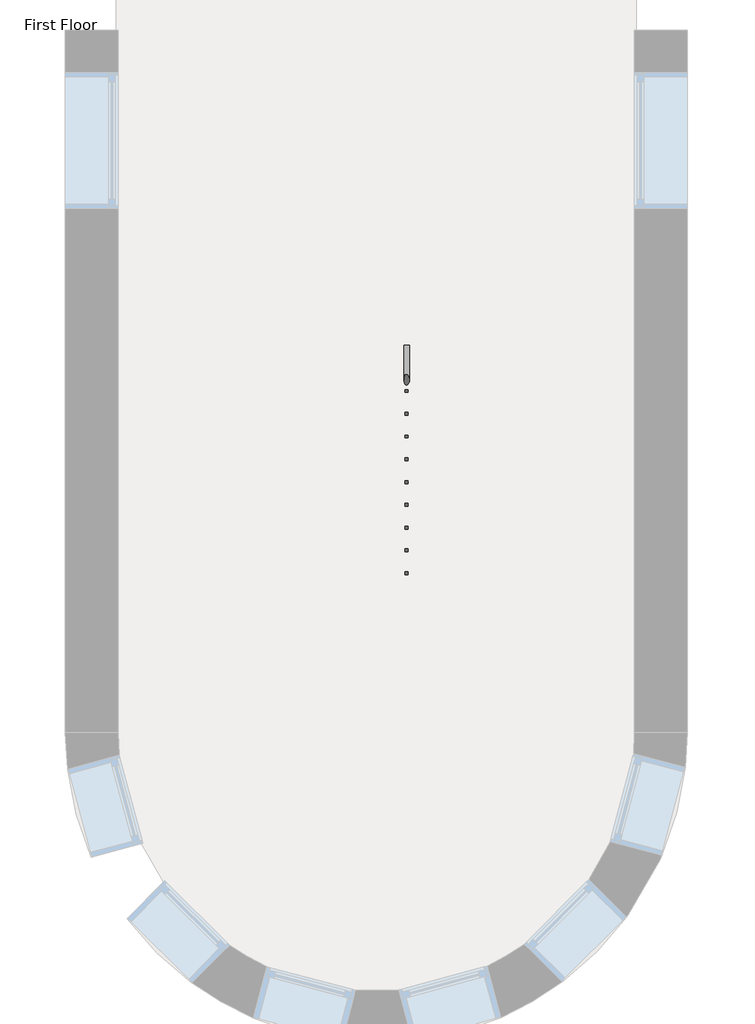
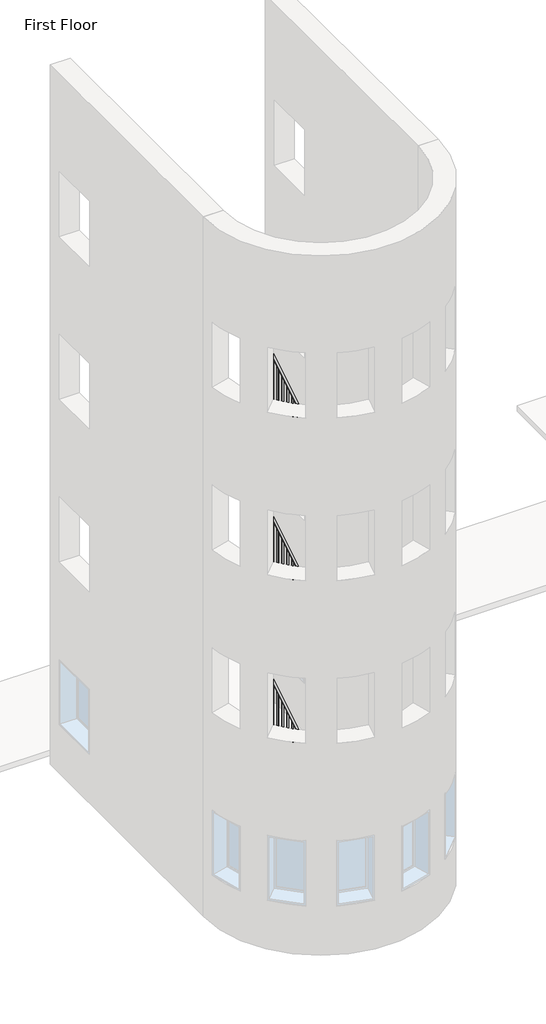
# One storey, part 18 of 21: 1 railing.
"""IFC4 building model written with IfcOpenShell, lengths in millimetres."""

from ifc_helpers import new_model, si_unit, frame, origin, place, context, project, spatial, polyline, circle_curve, ellipse_curve, outline, extrude, element, save
from ifc_brep_helpers import plane_surface, cylinder_surface, advanced_brep

model = new_model("IFC4")

# Units and contexts
model_context = context("Model", 3, world=origin())
ifc_project = project(units=[si_unit("LENGTHUNIT", "METRE", prefix="MILLI")], contexts=[model_context])

# Site, building, storey
site = spatial("IfcSite", under=ifc_project)
building = spatial("IfcBuilding", under=site)
storey = spatial("IfcBuildingStorey", under=building, Name="First Floor", Elevation=0.0)

# Railing
placement = place(None, origin())
element("IfcRailing", 1, ObjectType="Handrail - Rectangular", at=placement, inside=storey, context=model_context, shape_type="SolidModel", body=[
    advanced_brep(
    [(-14712.9214563, -30244.5683133, 7157.4577857), (-14751.0214563, -30244.5683133, 7157.4577857), (-14712.9214563, -32435.3183133, 8485.1850584), (-14751.0214563, -32435.3183133, 8485.1850584)],
    [
        (0, 1, ellipse_curve(frame((-14731.9714563, -30244.5683133, 7157.4577857), z_axis=(0.0, 1.0, 0.0), x_axis=(0.0, 0.0, -1.0)), 22.2755476, 19.05)),
        (1, 0, ellipse_curve(frame((-14731.9714563, -30244.5683133, 7157.4577857), z_axis=(0.0, 1.0, 0.0), x_axis=(0.0, 0.0, -1.0)), 22.2755476, 19.05)),
        (2, 3, ellipse_curve(frame((-14731.9714563, -32435.3183133, 8485.1850584), z_axis=(0.0, -1.0, 0.0), x_axis=(0.0, 0.0, -1.0)), 22.2755476, 19.05)),
        (3, 2, ellipse_curve(frame((-14731.9714563, -32435.3183133, 8485.1850584), z_axis=(0.0, -1.0, 0.0), x_axis=(0.0, 0.0, -1.0)), 22.2755476, 19.05)),
        (0, 2),
        (3, 1),
    ],
    [
        plane_surface(frame((-14731.9714563, -30244.5683133, 7179.7333333), z_axis=(0.0, 1.0, 0.0), x_axis=(0.0, 0.0, -1.0))),
        plane_surface(frame((-14731.9714563, -32435.3183133, 8507.460606), z_axis=(0.0, -1.0, 0.0), x_axis=(0.0, 0.0, -1.0))),
        cylinder_surface(frame((-14731.9714563, -30254.441961, 7163.4418146), z_axis=(0.0, 0.8551978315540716, -0.5183017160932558), x_axis=(-1.0, 0.0, 0.0)), 19.05),
    ],
    [
        (0, [[1, 2]]),
        (1, [[3, 4]]),
        (2, [[-1, 5, -4, 6]]),
        (2, [[-2, -6, -3, -5]]),
    ],
),
    advanced_brep(
    [(-14712.9214563, -32473.4183133, 8515.35), (-14712.9214563, -32435.3183133, 8515.35), (-15105.0339563, -32473.4183133, 8515.35), (-15105.0339563, -32435.3183133, 8515.35)],
    [
        (0, 1, circle_curve(frame((-14712.9214563, -32454.3683133, 8515.35), z_axis=(1.0, 0.0, 0.0), x_axis=(0.0, 1.0, 0.0)), 19.05)),
        (1, 0, circle_curve(frame((-14712.9214563, -32454.3683133, 8515.35), z_axis=(1.0, 0.0, 0.0), x_axis=(0.0, 1.0, 0.0)), 19.05)),
        (2, 3, circle_curve(frame((-15105.0339563, -32454.3683133, 8515.35), z_axis=(-1.0, 0.0, 0.0), x_axis=(0.0, 1.0, 0.0)), 19.05)),
        (3, 2, circle_curve(frame((-15105.0339563, -32454.3683133, 8515.35), z_axis=(-1.0, 0.0, 0.0), x_axis=(0.0, 1.0, 0.0)), 19.05)),
        (0, 2),
        (3, 1),
    ],
    [
        plane_surface(frame((-14712.9214563, -32454.3683133, 8534.4), z_axis=(1.0, 0.0, 0.0), x_axis=(0.0, -1.0, 0.0))),
        plane_surface(frame((-15105.0339563, -32454.3683133, 8534.4), z_axis=(-1.0, 0.0, 0.0), x_axis=(0.0, -1.0, 0.0))),
        cylinder_surface(frame((-14712.9214563, -32454.3683133, 8515.35), z_axis=(1.0, 0.0, 0.0), x_axis=(0.0, 1.0, 0.0)), 19.05),
    ],
    [
        (0, [[1, 2]]),
        (1, [[3, 4]]),
        (2, [[-1, 5, -4, 6]]),
        (2, [[-2, -6, -3, -5]]),
    ],
),
    advanced_brep(
    [(-15143.1339563, -32473.4183133, 8685.3062706), (-15105.0339563, -32473.4183133, 8685.3062706), (-15143.1339563, -30244.5683133, 10036.1244524), (-15105.0339563, -30244.5683133, 10036.1244524)],
    [
        (0, 1, ellipse_curve(frame((-15124.0839563, -32473.4183133, 8685.3062706), z_axis=(0.0, -1.0, 0.0), x_axis=(0.0, 0.0, -1.0)), 22.2755476, 19.05)),
        (1, 0, ellipse_curve(frame((-15124.0839563, -32473.4183133, 8685.3062706), z_axis=(0.0, -1.0, 0.0), x_axis=(0.0, 0.0, -1.0)), 22.2755476, 19.05)),
        (2, 3, ellipse_curve(frame((-15124.0839563, -30244.5683133, 10036.1244524), z_axis=(0.0, 1.0, 0.0), x_axis=(0.0, 0.0, -1.0)), 22.2755476, 19.05)),
        (3, 2, ellipse_curve(frame((-15124.0839563, -30244.5683133, 10036.1244524), z_axis=(0.0, 1.0, 0.0), x_axis=(0.0, 0.0, -1.0)), 22.2755476, 19.05)),
        (0, 2),
        (3, 1),
    ],
    [
        plane_surface(frame((-15124.0839563, -32473.4183133, 8707.5818182), z_axis=(0.0, -1.0, 0.0), x_axis=(0.0, 0.0, 1.0))),
        plane_surface(frame((-15124.0839563, -30244.5683133, 10058.4), z_axis=(0.0, 1.0, 0.0), x_axis=(0.0, 0.0, 1.0))),
        cylinder_surface(frame((-15124.0839563, -32463.5446656, 8691.2902995), z_axis=(0.0, -0.8551978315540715, -0.5183017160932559), x_axis=(1.0, 0.0, 0.0)), 19.05),
    ],
    [
        (0, [[1, 2]]),
        (1, [[3, 4]]),
        (2, [[-1, 5, -4, 6]]),
        (2, [[-2, -6, -3, -5]]),
    ],
),
    extrude(outline(polyline([(-30330.2933133, 9961.8943593), (-30311.2433133, 9973.4398139), (-30311.2433133, 9146.3720877), (-30330.2933133, 9134.8266332), (-30330.2933133, 9961.8943593)])), frame((-15133.6089563, 0.0, 0.0), z_axis=(1.0, 0.0, 0.0), x_axis=(0.0, 1.0, 0.0)), (0.0, 0.0, 1.0), 19.05),
    extrude(outline(polyline([(-30482.6933133, 9869.530723), (-30463.6433133, 9881.0761775), (-30463.6433133, 9054.0084513), (-30482.6933133, 9042.4629968), (-30482.6933133, 9869.530723)])), frame((-15133.6089563, 0.0, 0.0), z_axis=(1.0, 0.0, 0.0), x_axis=(0.0, 1.0, 0.0)), (0.0, 0.0, 1.0), 19.05),
    extrude(outline(polyline([(-30635.0933133, 9777.1670866), (-30616.0433133, 9788.7125412), (-30616.0433133, 8961.644815), (-30635.0933133, 8950.0993604), (-30635.0933133, 9777.1670866)])), frame((-15133.6089563, 0.0, 0.0), z_axis=(1.0, 0.0, 0.0), x_axis=(0.0, 1.0, 0.0)), (0.0, 0.0, 1.0), 19.05),
    extrude(outline(polyline([(-30787.4933133, 9684.8034502), (-30768.4433133, 9696.3489048), (-30768.4433133, 8869.2811786), (-30787.4933133, 8857.7357241), (-30787.4933133, 9684.8034502)])), frame((-15133.6089563, 0.0, 0.0), z_axis=(1.0, 0.0, 0.0), x_axis=(0.0, 1.0, 0.0)), (0.0, 0.0, 1.0), 19.05),
    extrude(outline(polyline([(-30939.8933133, 9592.4398139), (-30920.8433133, 9603.9852684), (-30920.8433133, 8776.9175422), (-30939.8933133, 8765.3720877), (-30939.8933133, 9592.4398139)])), frame((-15133.6089563, 0.0, 0.0), z_axis=(1.0, 0.0, 0.0), x_axis=(0.0, 1.0, 0.0)), (0.0, 0.0, 1.0), 19.05),
    extrude(outline(polyline([(-31092.2933133, 9500.0761775), (-31073.2433133, 9511.6216321), (-31073.2433133, 8684.5539059), (-31092.2933133, 8673.0084513), (-31092.2933133, 9500.0761775)])), frame((-15133.6089563, 0.0, 0.0), z_axis=(1.0, 0.0, 0.0), x_axis=(0.0, 1.0, 0.0)), (0.0, 0.0, 1.0), 19.05),
    extrude(outline(polyline([(-31244.6933133, 9407.7125412), (-31225.6433133, 9419.2579957), (-31225.6433133, 8592.1902695), (-31244.6933133, 8580.644815), (-31244.6933133, 9407.7125412)])), frame((-15133.6089563, 0.0, 0.0), z_axis=(1.0, 0.0, 0.0), x_axis=(0.0, 1.0, 0.0)), (0.0, 0.0, 1.0), 19.05),
    extrude(outline(polyline([(-31397.0933133, 9315.3489048), (-31378.0433133, 9326.8943593), (-31378.0433133, 8499.8266332), (-31397.0933133, 8488.2811786), (-31397.0933133, 9315.3489048)])), frame((-15133.6089563, 0.0, 0.0), z_axis=(1.0, 0.0, 0.0), x_axis=(0.0, 1.0, 0.0)), (0.0, 0.0, 1.0), 19.05),
    extrude(outline(polyline([(-31549.4933133, 9222.9852684), (-31530.4433133, 9234.530723), (-31530.4433133, 8407.4629968), (-31549.4933133, 8395.9175422), (-31549.4933133, 9222.9852684)])), frame((-15133.6089563, 0.0, 0.0), z_axis=(1.0, 0.0, 0.0), x_axis=(0.0, 1.0, 0.0)), (0.0, 0.0, 1.0), 19.05),
    extrude(outline(polyline([(-31701.8933133, 9130.6216321), (-31682.8433133, 9142.1670866), (-31682.8433133, 8315.0993604), (-31701.8933133, 8303.5539059), (-31701.8933133, 9130.6216321)])), frame((-15133.6089563, 0.0, 0.0), z_axis=(1.0, 0.0, 0.0), x_axis=(0.0, 1.0, 0.0)), (0.0, 0.0, 1.0), 19.05),
    extrude(outline(polyline([(-31854.2933133, 9038.2579957), (-31835.2433133, 9049.8034502), (-31835.2433133, 8222.7357241), (-31854.2933133, 8211.1902695), (-31854.2933133, 9038.2579957)])), frame((-15133.6089563, 0.0, 0.0), z_axis=(1.0, 0.0, 0.0), x_axis=(0.0, 1.0, 0.0)), (0.0, 0.0, 1.0), 19.05),
    extrude(outline(polyline([(-32006.6933133, 8945.8943593), (-31987.6433133, 8957.4398139), (-31987.6433133, 8130.3720877), (-32006.6933133, 8118.8266332), (-32006.6933133, 8945.8943593)])), frame((-15133.6089563, 0.0, 0.0), z_axis=(1.0, 0.0, 0.0), x_axis=(0.0, 1.0, 0.0)), (0.0, 0.0, 1.0), 19.05),
    extrude(outline(polyline([(-32159.0933133, 8853.530723), (-32140.0433133, 8865.0761775), (-32140.0433133, 8038.0084513), (-32159.0933133, 8026.4629968), (-32159.0933133, 8853.530723)])), frame((-15133.6089563, 0.0, 0.0), z_axis=(1.0, 0.0, 0.0), x_axis=(0.0, 1.0, 0.0)), (0.0, 0.0, 1.0), 19.05),
    extrude(outline(polyline([(-32311.4933133, 8761.1670866), (-32292.4433133, 8772.7125412), (-32292.4433133, 7945.644815), (-32311.4933133, 7934.0993604), (-32311.4933133, 8761.1670866)])), frame((-15133.6089563, 0.0, 0.0), z_axis=(1.0, 0.0, 0.0), x_axis=(0.0, 1.0, 0.0)), (0.0, 0.0, 1.0), 19.05),
    extrude(outline(polyline([(-15027.2464563, -32444.8433133), (-15027.2464563, -32463.8933133), (-15046.2964563, -32463.8933133), (-15046.2964563, -32444.8433133), (-15027.2464563, -32444.8433133)])), frame((0.0, 0.0, 7696.2), z_axis=(0.0, 0.0, 1.0), x_axis=(1.0, 0.0, 0.0)), (0.0, 0.0, 1.0), 800.1),
    extrude(outline(polyline([(-14874.8464563, -32444.8433133), (-14874.8464563, -32463.8933133), (-14893.8964563, -32463.8933133), (-14893.8964563, -32444.8433133), (-14874.8464563, -32444.8433133)])), frame((0.0, 0.0, 7696.2), z_axis=(0.0, 0.0, 1.0), x_axis=(1.0, 0.0, 0.0)), (0.0, 0.0, 1.0), 800.1),
    extrude(outline(polyline([(-32387.6933133, 8434.0458745), (-32368.6433133, 8422.5004199), (-32368.6433133, 7595.4326938), (-32387.6933133, 7606.9781483), (-32387.6933133, 8434.0458745)])), frame((-14741.4964563, 0.0, 0.0), z_axis=(1.0, 0.0, 0.0), x_axis=(0.0, 1.0, 0.0)), (0.0, 0.0, 1.0), 19.05),
    extrude(outline(polyline([(-32235.2933133, 8341.6822381), (-32216.2433133, 8330.1367836), (-32216.2433133, 7503.0690574), (-32235.2933133, 7514.6145119), (-32235.2933133, 8341.6822381)])), frame((-14741.4964563, 0.0, 0.0), z_axis=(1.0, 0.0, 0.0), x_axis=(0.0, 1.0, 0.0)), (0.0, 0.0, 1.0), 19.05),
    extrude(outline(polyline([(-32082.8933133, 8249.3186018), (-32063.8433133, 8237.7731472), (-32063.8433133, 7410.705421), (-32082.8933133, 7422.2508756), (-32082.8933133, 8249.3186018)])), frame((-14741.4964563, 0.0, 0.0), z_axis=(1.0, 0.0, 0.0), x_axis=(0.0, 1.0, 0.0)), (0.0, 0.0, 1.0), 19.05),
    extrude(outline(polyline([(-31930.4933133, 8156.9549654), (-31911.4433133, 8145.4095109), (-31911.4433133, 7318.3417847), (-31930.4933133, 7329.8872392), (-31930.4933133, 8156.9549654)])), frame((-14741.4964563, 0.0, 0.0), z_axis=(1.0, 0.0, 0.0), x_axis=(0.0, 1.0, 0.0)), (0.0, 0.0, 1.0), 19.05),
    extrude(outline(polyline([(-31778.0933133, 8064.591329), (-31759.0433133, 8053.0458745), (-31759.0433133, 7225.9781483), (-31778.0933133, 7237.5236029), (-31778.0933133, 8064.591329)])), frame((-14741.4964563, 0.0, 0.0), z_axis=(1.0, 0.0, 0.0), x_axis=(0.0, 1.0, 0.0)), (0.0, 0.0, 1.0), 19.05),
    extrude(outline(polyline([(-31625.6933133, 7972.2276927), (-31606.6433133, 7960.6822381), (-31606.6433133, 7133.6145119), (-31625.6933133, 7145.1599665), (-31625.6933133, 7972.2276927)])), frame((-14741.4964563, 0.0, 0.0), z_axis=(1.0, 0.0, 0.0), x_axis=(0.0, 1.0, 0.0)), (0.0, 0.0, 1.0), 19.05),
    extrude(outline(polyline([(-31473.2933133, 7879.8640563), (-31454.2433133, 7868.3186018), (-31454.2433133, 7041.2508756), (-31473.2933133, 7052.7963301), (-31473.2933133, 7879.8640563)])), frame((-14741.4964563, 0.0, 0.0), z_axis=(1.0, 0.0, 0.0), x_axis=(0.0, 1.0, 0.0)), (0.0, 0.0, 1.0), 19.05),
    extrude(outline(polyline([(-31320.8933133, 7787.5004199), (-31301.8433133, 7775.9549654), (-31301.8433133, 6948.8872392), (-31320.8933133, 6960.4326938), (-31320.8933133, 7787.5004199)])), frame((-14741.4964563, 0.0, 0.0), z_axis=(1.0, 0.0, 0.0), x_axis=(0.0, 1.0, 0.0)), (0.0, 0.0, 1.0), 19.05),
    extrude(outline(polyline([(-31168.4933133, 7695.1367836), (-31149.4433133, 7683.591329), (-31149.4433133, 6856.5236029), (-31168.4933133, 6868.0690574), (-31168.4933133, 7695.1367836)])), frame((-14741.4964563, 0.0, 0.0), z_axis=(1.0, 0.0, 0.0), x_axis=(0.0, 1.0, 0.0)), (0.0, 0.0, 1.0), 19.05),
    extrude(outline(polyline([(-31016.0933133, 7602.7731472), (-30997.0433133, 7591.2276927), (-30997.0433133, 6764.1599665), (-31016.0933133, 6775.705421), (-31016.0933133, 7602.7731472)])), frame((-14741.4964563, 0.0, 0.0), z_axis=(1.0, 0.0, 0.0), x_axis=(0.0, 1.0, 0.0)), (0.0, 0.0, 1.0), 19.05),
    extrude(outline(polyline([(-30863.6933133, 7510.4095109), (-30844.6433133, 7498.8640563), (-30844.6433133, 6671.7963301), (-30863.6933133, 6683.3417847), (-30863.6933133, 7510.4095109)])), frame((-14741.4964563, 0.0, 0.0), z_axis=(1.0, 0.0, 0.0), x_axis=(0.0, 1.0, 0.0)), (0.0, 0.0, 1.0), 19.05),
    extrude(outline(polyline([(-30711.2933133, 7418.0458745), (-30692.2433133, 7406.5004199), (-30692.2433133, 6579.4326938), (-30711.2933133, 6590.9781483), (-30711.2933133, 7418.0458745)])), frame((-14741.4964563, 0.0, 0.0), z_axis=(1.0, 0.0, 0.0), x_axis=(0.0, 1.0, 0.0)), (0.0, 0.0, 1.0), 19.05),
    extrude(outline(polyline([(-30558.8933133, 7325.6822381), (-30539.8433133, 7314.1367836), (-30539.8433133, 6487.0690574), (-30558.8933133, 6498.6145119), (-30558.8933133, 7325.6822381)])), frame((-14741.4964563, 0.0, 0.0), z_axis=(1.0, 0.0, 0.0), x_axis=(0.0, 1.0, 0.0)), (0.0, 0.0, 1.0), 19.05),
    extrude(outline(polyline([(-30406.4933133, 7233.3186018), (-30387.4433133, 7221.7731472), (-30387.4433133, 6394.705421), (-30406.4933133, 6406.2508756), (-30406.4933133, 7233.3186018)])), frame((-14741.4964563, 0.0, 0.0), z_axis=(1.0, 0.0, 0.0), x_axis=(0.0, 1.0, 0.0)), (0.0, 0.0, 1.0), 19.05),
    extrude(outline(polyline([(-32463.8933133, 8668.8034502), (-32444.8433133, 8680.3489048), (-32444.8433133, 7853.2811786), (-32463.8933133, 7841.7357241), (-32463.8933133, 8668.8034502)])), frame((-15133.6089563, 0.0, 0.0), z_axis=(1.0, 0.0, 0.0), x_axis=(0.0, 1.0, 0.0)), (0.0, 0.0, 1.0), 19.05),
    extrude(outline(polyline([(-14722.4464563, -32444.8433133), (-14722.4464563, -32463.8933133), (-14741.4964563, -32463.8933133), (-14741.4964563, -32444.8433133), (-14722.4464563, -32444.8433133)])), frame((0.0, 0.0, 7696.2), z_axis=(0.0, 0.0, 1.0), x_axis=(1.0, 0.0, 0.0)), (0.0, 0.0, 1.0), 800.1),
    extrude(outline(polyline([(-30263.6183133, 10002.3034502), (-30244.5683133, 10013.8489048), (-30244.5683133, 9186.7811786), (-30263.6183133, 9175.2357241), (-30263.6183133, 10002.3034502)])), frame((-15133.6089563, 0.0, 0.0), z_axis=(1.0, 0.0, 0.0), x_axis=(0.0, 1.0, 0.0)), (0.0, 0.0, 1.0), 19.05),
    extrude(outline(polyline([(-30263.6183133, 7146.7276927), (-30244.5683133, 7135.1822381), (-30244.5683133, 6308.1145119), (-30263.6183133, 6319.6599665), (-30263.6183133, 7146.7276927)])), frame((-14741.4964563, 0.0, 0.0), z_axis=(1.0, 0.0, 0.0), x_axis=(0.0, 1.0, 0.0)), (0.0, 0.0, 1.0), 19.05),
    advanced_brep(
    [(-14712.9214563, -30244.5683133, 4109.4577857), (-14751.0214563, -30244.5683133, 4109.4577857), (-14712.9214563, -32435.3183133, 5437.1850585), (-14751.0214563, -32435.3183133, 5437.1850585)],
    [
        (0, 1, ellipse_curve(frame((-14731.9714563, -30244.5683133, 4109.4577857), z_axis=(0.0, 1.0, 0.0), x_axis=(0.0, 0.0, -1.0)), 22.2755476, 19.05)),
        (1, 0, ellipse_curve(frame((-14731.9714563, -30244.5683133, 4109.4577857), z_axis=(0.0, 1.0, 0.0), x_axis=(0.0, 0.0, -1.0)), 22.2755476, 19.05)),
        (2, 3, ellipse_curve(frame((-14731.9714563, -32435.3183133, 5437.1850585), z_axis=(0.0, -1.0, 0.0), x_axis=(0.0, 0.0, -1.0)), 22.2755476, 19.05)),
        (3, 2, ellipse_curve(frame((-14731.9714563, -32435.3183133, 5437.1850585), z_axis=(0.0, -1.0, 0.0), x_axis=(0.0, 0.0, -1.0)), 22.2755476, 19.05)),
        (0, 2),
        (3, 1),
    ],
    [
        plane_surface(frame((-14731.9714563, -30244.5683133, 4131.7333333), z_axis=(0.0, 1.0, 0.0), x_axis=(0.0, 0.0, -1.0))),
        plane_surface(frame((-14731.9714563, -32435.3183133, 5459.4606061), z_axis=(0.0, -1.0, 0.0), x_axis=(0.0, 0.0, -1.0))),
        cylinder_surface(frame((-14731.9714563, -30254.441961, 4115.4418146), z_axis=(0.0, 0.8551978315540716, -0.5183017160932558), x_axis=(-1.0, 0.0, 0.0)), 19.05),
    ],
    [
        (0, [[1, 2]]),
        (1, [[3, 4]]),
        (2, [[-1, 5, -4, 6]]),
        (2, [[-2, -6, -3, -5]]),
    ],
),
    advanced_brep(
    [(-14712.9214563, -32473.4183133, 5467.35), (-14712.9214563, -32435.3183133, 5467.35), (-15105.0339563, -32473.4183133, 5467.35), (-15105.0339563, -32435.3183133, 5467.35)],
    [
        (0, 1, circle_curve(frame((-14712.9214563, -32454.3683133, 5467.35), z_axis=(1.0, 0.0, 0.0), x_axis=(0.0, 1.0, 0.0)), 19.05)),
        (1, 0, circle_curve(frame((-14712.9214563, -32454.3683133, 5467.35), z_axis=(1.0, 0.0, 0.0), x_axis=(0.0, 1.0, 0.0)), 19.05)),
        (2, 3, circle_curve(frame((-15105.0339563, -32454.3683133, 5467.35), z_axis=(-1.0, 0.0, 0.0), x_axis=(0.0, 1.0, 0.0)), 19.05)),
        (3, 2, circle_curve(frame((-15105.0339563, -32454.3683133, 5467.35), z_axis=(-1.0, 0.0, 0.0), x_axis=(0.0, 1.0, 0.0)), 19.05)),
        (0, 2),
        (3, 1),
    ],
    [
        plane_surface(frame((-14712.9214563, -32454.3683133, 5486.4), z_axis=(1.0, 0.0, 0.0), x_axis=(0.0, -1.0, 0.0))),
        plane_surface(frame((-15105.0339563, -32454.3683133, 5486.4), z_axis=(-1.0, 0.0, 0.0), x_axis=(0.0, -1.0, 0.0))),
        cylinder_surface(frame((-14712.9214563, -32454.3683133, 5467.35), z_axis=(1.0, 0.0, 0.0), x_axis=(0.0, 1.0, 0.0)), 19.05),
    ],
    [
        (0, [[1, 2]]),
        (1, [[3, 4]]),
        (2, [[-1, 5, -4, 6]]),
        (2, [[-2, -6, -3, -5]]),
    ],
),
    advanced_brep(
    [(-15143.1339563, -32473.4183133, 5637.3062706), (-15105.0339563, -32473.4183133, 5637.3062706), (-15143.1339563, -30244.5683133, 6988.1244524), (-15105.0339563, -30244.5683133, 6988.1244524)],
    [
        (0, 1, ellipse_curve(frame((-15124.0839563, -32473.4183133, 5637.3062706), z_axis=(0.0, -1.0, 0.0), x_axis=(0.0, 0.0, -1.0)), 22.2755476, 19.05)),
        (1, 0, ellipse_curve(frame((-15124.0839563, -32473.4183133, 5637.3062706), z_axis=(0.0, -1.0, 0.0), x_axis=(0.0, 0.0, -1.0)), 22.2755476, 19.05)),
        (2, 3, ellipse_curve(frame((-15124.0839563, -30244.5683133, 6988.1244524), z_axis=(0.0, 1.0, 0.0), x_axis=(0.0, 0.0, -1.0)), 22.2755476, 19.05)),
        (3, 2, ellipse_curve(frame((-15124.0839563, -30244.5683133, 6988.1244524), z_axis=(0.0, 1.0, 0.0), x_axis=(0.0, 0.0, -1.0)), 22.2755476, 19.05)),
        (0, 2),
        (3, 1),
    ],
    [
        plane_surface(frame((-15124.0839563, -32473.4183133, 5659.5818182), z_axis=(0.0, -1.0, 0.0), x_axis=(0.0, 0.0, 1.0))),
        plane_surface(frame((-15124.0839563, -30244.5683133, 7010.4), z_axis=(0.0, 1.0, 0.0), x_axis=(0.0, 0.0, 1.0))),
        cylinder_surface(frame((-15124.0839563, -32463.5446656, 5643.2902995), z_axis=(0.0, -0.8551978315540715, -0.5183017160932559), x_axis=(1.0, 0.0, 0.0)), 19.05),
    ],
    [
        (0, [[1, 2]]),
        (1, [[3, 4]]),
        (2, [[-1, 5, -4, 6]]),
        (2, [[-2, -6, -3, -5]]),
    ],
),
    extrude(outline(polyline([(-30330.2933133, 6913.8943593), (-30311.2433133, 6925.4398139), (-30311.2433133, 6098.3720877), (-30330.2933133, 6086.8266332), (-30330.2933133, 6913.8943593)])), frame((-15133.6089563, 0.0, 0.0), z_axis=(1.0, 0.0, 0.0), x_axis=(0.0, 1.0, 0.0)), (0.0, 0.0, 1.0), 19.05),
    extrude(outline(polyline([(-30482.6933133, 6821.530723), (-30463.6433133, 6833.0761775), (-30463.6433133, 6006.0084513), (-30482.6933133, 5994.4629968), (-30482.6933133, 6821.530723)])), frame((-15133.6089563, 0.0, 0.0), z_axis=(1.0, 0.0, 0.0), x_axis=(0.0, 1.0, 0.0)), (0.0, 0.0, 1.0), 19.05),
    extrude(outline(polyline([(-30635.0933133, 6729.1670866), (-30616.0433133, 6740.7125412), (-30616.0433133, 5913.644815), (-30635.0933133, 5902.0993604), (-30635.0933133, 6729.1670866)])), frame((-15133.6089563, 0.0, 0.0), z_axis=(1.0, 0.0, 0.0), x_axis=(0.0, 1.0, 0.0)), (0.0, 0.0, 1.0), 19.05),
    extrude(outline(polyline([(-30787.4933133, 6636.8034503), (-30768.4433133, 6648.3489048), (-30768.4433133, 5821.2811786), (-30787.4933133, 5809.7357241), (-30787.4933133, 6636.8034503)])), frame((-15133.6089563, 0.0, 0.0), z_axis=(1.0, 0.0, 0.0), x_axis=(0.0, 1.0, 0.0)), (0.0, 0.0, 1.0), 19.05),
    extrude(outline(polyline([(-30939.8933133, 6544.4398139), (-30920.8433133, 6555.9852684), (-30920.8433133, 5728.9175423), (-30939.8933133, 5717.3720877), (-30939.8933133, 6544.4398139)])), frame((-15133.6089563, 0.0, 0.0), z_axis=(1.0, 0.0, 0.0), x_axis=(0.0, 1.0, 0.0)), (0.0, 0.0, 1.0), 19.05),
    extrude(outline(polyline([(-31092.2933133, 6452.0761775), (-31073.2433133, 6463.6216321), (-31073.2433133, 5636.5539059), (-31092.2933133, 5625.0084513), (-31092.2933133, 6452.0761775)])), frame((-15133.6089563, 0.0, 0.0), z_axis=(1.0, 0.0, 0.0), x_axis=(0.0, 1.0, 0.0)), (0.0, 0.0, 1.0), 19.05),
    extrude(outline(polyline([(-31244.6933133, 6359.7125412), (-31225.6433133, 6371.2579957), (-31225.6433133, 5544.1902695), (-31244.6933133, 5532.644815), (-31244.6933133, 6359.7125412)])), frame((-15133.6089563, 0.0, 0.0), z_axis=(1.0, 0.0, 0.0), x_axis=(0.0, 1.0, 0.0)), (0.0, 0.0, 1.0), 19.05),
    extrude(outline(polyline([(-31397.0933133, 6267.3489048), (-31378.0433133, 6278.8943593), (-31378.0433133, 5451.8266332), (-31397.0933133, 5440.2811786), (-31397.0933133, 6267.3489048)])), frame((-15133.6089563, 0.0, 0.0), z_axis=(1.0, 0.0, 0.0), x_axis=(0.0, 1.0, 0.0)), (0.0, 0.0, 1.0), 19.05),
    extrude(outline(polyline([(-31549.4933133, 6174.9852684), (-31530.4433133, 6186.530723), (-31530.4433133, 5359.4629968), (-31549.4933133, 5347.9175423), (-31549.4933133, 6174.9852684)])), frame((-15133.6089563, 0.0, 0.0), z_axis=(1.0, 0.0, 0.0), x_axis=(0.0, 1.0, 0.0)), (0.0, 0.0, 1.0), 19.05),
    extrude(outline(polyline([(-31701.8933133, 6082.6216321), (-31682.8433133, 6094.1670866), (-31682.8433133, 5267.0993604), (-31701.8933133, 5255.5539059), (-31701.8933133, 6082.6216321)])), frame((-15133.6089563, 0.0, 0.0), z_axis=(1.0, 0.0, 0.0), x_axis=(0.0, 1.0, 0.0)), (0.0, 0.0, 1.0), 19.05),
    extrude(outline(polyline([(-31854.2933133, 5990.2579957), (-31835.2433133, 6001.8034503), (-31835.2433133, 5174.7357241), (-31854.2933133, 5163.1902695), (-31854.2933133, 5990.2579957)])), frame((-15133.6089563, 0.0, 0.0), z_axis=(1.0, 0.0, 0.0), x_axis=(0.0, 1.0, 0.0)), (0.0, 0.0, 1.0), 19.05),
    extrude(outline(polyline([(-32006.6933133, 5897.8943593), (-31987.6433133, 5909.4398139), (-31987.6433133, 5082.3720877), (-32006.6933133, 5070.8266332), (-32006.6933133, 5897.8943593)])), frame((-15133.6089563, 0.0, 0.0), z_axis=(1.0, 0.0, 0.0), x_axis=(0.0, 1.0, 0.0)), (0.0, 0.0, 1.0), 19.05),
    extrude(outline(polyline([(-32159.0933133, 5805.530723), (-32140.0433133, 5817.0761775), (-32140.0433133, 4990.0084513), (-32159.0933133, 4978.4629968), (-32159.0933133, 5805.530723)])), frame((-15133.6089563, 0.0, 0.0), z_axis=(1.0, 0.0, 0.0), x_axis=(0.0, 1.0, 0.0)), (0.0, 0.0, 1.0), 19.05),
    extrude(outline(polyline([(-32311.4933133, 5713.1670866), (-32292.4433133, 5724.7125412), (-32292.4433133, 4897.644815), (-32311.4933133, 4886.0993604), (-32311.4933133, 5713.1670866)])), frame((-15133.6089563, 0.0, 0.0), z_axis=(1.0, 0.0, 0.0), x_axis=(0.0, 1.0, 0.0)), (0.0, 0.0, 1.0), 19.05),
    extrude(outline(polyline([(-15027.2464563, -32444.8433133), (-15027.2464563, -32463.8933133), (-15046.2964563, -32463.8933133), (-15046.2964563, -32444.8433133), (-15027.2464563, -32444.8433133)])), frame((0.0, 0.0, 4648.2), z_axis=(0.0, 0.0, 1.0), x_axis=(1.0, 0.0, 0.0)), (0.0, 0.0, 1.0), 800.1),
    extrude(outline(polyline([(-14874.8464563, -32444.8433133), (-14874.8464563, -32463.8933133), (-14893.8964563, -32463.8933133), (-14893.8964563, -32444.8433133), (-14874.8464563, -32444.8433133)])), frame((0.0, 0.0, 4648.2), z_axis=(0.0, 0.0, 1.0), x_axis=(1.0, 0.0, 0.0)), (0.0, 0.0, 1.0), 800.1),
    extrude(outline(polyline([(-32387.6933133, 5386.0458745), (-32368.6433133, 5374.50042), (-32368.6433133, 4547.4326938), (-32387.6933133, 4558.9781483), (-32387.6933133, 5386.0458745)])), frame((-14741.4964563, 0.0, 0.0), z_axis=(1.0, 0.0, 0.0), x_axis=(0.0, 1.0, 0.0)), (0.0, 0.0, 1.0), 19.05),
    extrude(outline(polyline([(-32235.2933133, 5293.6822381), (-32216.2433133, 5282.1367836), (-32216.2433133, 4455.0690574), (-32235.2933133, 4466.614512), (-32235.2933133, 5293.6822381)])), frame((-14741.4964563, 0.0, 0.0), z_axis=(1.0, 0.0, 0.0), x_axis=(0.0, 1.0, 0.0)), (0.0, 0.0, 1.0), 19.05),
    extrude(outline(polyline([(-32082.8933133, 5201.3186018), (-32063.8433133, 5189.7731472), (-32063.8433133, 4362.705421), (-32082.8933133, 4374.2508756), (-32082.8933133, 5201.3186018)])), frame((-14741.4964563, 0.0, 0.0), z_axis=(1.0, 0.0, 0.0), x_axis=(0.0, 1.0, 0.0)), (0.0, 0.0, 1.0), 19.05),
    extrude(outline(polyline([(-31930.4933133, 5108.9549654), (-31911.4433133, 5097.4095109), (-31911.4433133, 4270.3417847), (-31930.4933133, 4281.8872392), (-31930.4933133, 5108.9549654)])), frame((-14741.4964563, 0.0, 0.0), z_axis=(1.0, 0.0, 0.0), x_axis=(0.0, 1.0, 0.0)), (0.0, 0.0, 1.0), 19.05),
    extrude(outline(polyline([(-31778.0933133, 5016.591329), (-31759.0433133, 5005.0458745), (-31759.0433133, 4177.9781483), (-31778.0933133, 4189.5236029), (-31778.0933133, 5016.591329)])), frame((-14741.4964563, 0.0, 0.0), z_axis=(1.0, 0.0, 0.0), x_axis=(0.0, 1.0, 0.0)), (0.0, 0.0, 1.0), 19.05),
    extrude(outline(polyline([(-31625.6933133, 4924.2276927), (-31606.6433133, 4912.6822381), (-31606.6433133, 4085.614512), (-31625.6933133, 4097.1599665), (-31625.6933133, 4924.2276927)])), frame((-14741.4964563, 0.0, 0.0), z_axis=(1.0, 0.0, 0.0), x_axis=(0.0, 1.0, 0.0)), (0.0, 0.0, 1.0), 19.05),
    extrude(outline(polyline([(-31473.2933133, 4831.8640563), (-31454.2433133, 4820.3186018), (-31454.2433133, 3993.2508756), (-31473.2933133, 4004.7963301), (-31473.2933133, 4831.8640563)])), frame((-14741.4964563, 0.0, 0.0), z_axis=(1.0, 0.0, 0.0), x_axis=(0.0, 1.0, 0.0)), (0.0, 0.0, 1.0), 19.05),
    extrude(outline(polyline([(-31320.8933133, 4739.50042), (-31301.8433133, 4727.9549654), (-31301.8433133, 3900.8872392), (-31320.8933133, 3912.4326938), (-31320.8933133, 4739.50042)])), frame((-14741.4964563, 0.0, 0.0), z_axis=(1.0, 0.0, 0.0), x_axis=(0.0, 1.0, 0.0)), (0.0, 0.0, 1.0), 19.05),
    extrude(outline(polyline([(-31168.4933133, 4647.1367836), (-31149.4433133, 4635.591329), (-31149.4433133, 3808.5236029), (-31168.4933133, 3820.0690574), (-31168.4933133, 4647.1367836)])), frame((-14741.4964563, 0.0, 0.0), z_axis=(1.0, 0.0, 0.0), x_axis=(0.0, 1.0, 0.0)), (0.0, 0.0, 1.0), 19.05),
    extrude(outline(polyline([(-31016.0933133, 4554.7731472), (-30997.0433133, 4543.2276927), (-30997.0433133, 3716.1599665), (-31016.0933133, 3727.705421), (-31016.0933133, 4554.7731472)])), frame((-14741.4964563, 0.0, 0.0), z_axis=(1.0, 0.0, 0.0), x_axis=(0.0, 1.0, 0.0)), (0.0, 0.0, 1.0), 19.05),
    extrude(outline(polyline([(-30863.6933133, 4462.4095109), (-30844.6433133, 4450.8640563), (-30844.6433133, 3623.7963301), (-30863.6933133, 3635.3417847), (-30863.6933133, 4462.4095109)])), frame((-14741.4964563, 0.0, 0.0), z_axis=(1.0, 0.0, 0.0), x_axis=(0.0, 1.0, 0.0)), (0.0, 0.0, 1.0), 19.05),
    extrude(outline(polyline([(-30711.2933133, 4370.0458745), (-30692.2433133, 4358.50042), (-30692.2433133, 3531.4326938), (-30711.2933133, 3542.9781483), (-30711.2933133, 4370.0458745)])), frame((-14741.4964563, 0.0, 0.0), z_axis=(1.0, 0.0, 0.0), x_axis=(0.0, 1.0, 0.0)), (0.0, 0.0, 1.0), 19.05),
    extrude(outline(polyline([(-30558.8933133, 4277.6822381), (-30539.8433133, 4266.1367836), (-30539.8433133, 3439.0690574), (-30558.8933133, 3450.614512), (-30558.8933133, 4277.6822381)])), frame((-14741.4964563, 0.0, 0.0), z_axis=(1.0, 0.0, 0.0), x_axis=(0.0, 1.0, 0.0)), (0.0, 0.0, 1.0), 19.05),
    extrude(outline(polyline([(-30406.4933133, 4185.3186018), (-30387.4433133, 4173.7731472), (-30387.4433133, 3346.705421), (-30406.4933133, 3358.2508756), (-30406.4933133, 4185.3186018)])), frame((-14741.4964563, 0.0, 0.0), z_axis=(1.0, 0.0, 0.0), x_axis=(0.0, 1.0, 0.0)), (0.0, 0.0, 1.0), 19.05),
    extrude(outline(polyline([(-32463.8933133, 5620.8034503), (-32444.8433133, 5632.3489048), (-32444.8433133, 4805.2811786), (-32463.8933133, 4793.7357241), (-32463.8933133, 5620.8034503)])), frame((-15133.6089563, 0.0, 0.0), z_axis=(1.0, 0.0, 0.0), x_axis=(0.0, 1.0, 0.0)), (0.0, 0.0, 1.0), 19.05),
    extrude(outline(polyline([(-14722.4464563, -32444.8433133), (-14722.4464563, -32463.8933133), (-14741.4964563, -32463.8933133), (-14741.4964563, -32444.8433133), (-14722.4464563, -32444.8433133)])), frame((0.0, 0.0, 4648.2), z_axis=(0.0, 0.0, 1.0), x_axis=(1.0, 0.0, 0.0)), (0.0, 0.0, 1.0), 800.1),
    extrude(outline(polyline([(-30263.6183133, 6954.3034503), (-30244.5683133, 6965.8489048), (-30244.5683133, 6138.7811786), (-30263.6183133, 6127.2357241), (-30263.6183133, 6954.3034503)])), frame((-15133.6089563, 0.0, 0.0), z_axis=(1.0, 0.0, 0.0), x_axis=(0.0, 1.0, 0.0)), (0.0, 0.0, 1.0), 19.05),
    extrude(outline(polyline([(-30263.6183133, 4098.7276927), (-30244.5683133, 4087.1822381), (-30244.5683133, 3260.114512), (-30263.6183133, 3271.6599665), (-30263.6183133, 4098.7276927)])), frame((-14741.4964563, 0.0, 0.0), z_axis=(1.0, 0.0, 0.0), x_axis=(0.0, 1.0, 0.0)), (0.0, 0.0, 1.0), 19.05),
    advanced_brep(
    [(-14712.9214563, -30244.5683133, 1061.4577857), (-14751.0214563, -30244.5683133, 1061.4577857), (-14712.9214563, -32435.3183133, 2389.1850585), (-14751.0214563, -32435.3183133, 2389.1850585)],
    [
        (0, 1, ellipse_curve(frame((-14731.9714563, -30244.5683133, 1061.4577857), z_axis=(0.0, 1.0, 0.0), x_axis=(0.0, 0.0, -1.0)), 22.2755476, 19.05)),
        (1, 0, ellipse_curve(frame((-14731.9714563, -30244.5683133, 1061.4577857), z_axis=(0.0, 1.0, 0.0), x_axis=(0.0, 0.0, -1.0)), 22.2755476, 19.05)),
        (2, 3, ellipse_curve(frame((-14731.9714563, -32435.3183133, 2389.1850585), z_axis=(0.0, -1.0, 0.0), x_axis=(0.0, 0.0, -1.0)), 22.2755476, 19.05)),
        (3, 2, ellipse_curve(frame((-14731.9714563, -32435.3183133, 2389.1850585), z_axis=(0.0, -1.0, 0.0), x_axis=(0.0, 0.0, -1.0)), 22.2755476, 19.05)),
        (0, 2),
        (3, 1),
    ],
    [
        plane_surface(frame((-14731.9714563, -30244.5683133, 1083.7333333), z_axis=(0.0, 1.0, 0.0), x_axis=(0.0, 0.0, -1.0))),
        plane_surface(frame((-14731.9714563, -32435.3183133, 2411.4606061), z_axis=(0.0, -1.0, 0.0), x_axis=(0.0, 0.0, -1.0))),
        cylinder_surface(frame((-14731.9714563, -30254.441961, 1067.4418146), z_axis=(0.0, 0.8551978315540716, -0.5183017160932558), x_axis=(-1.0, 0.0, 0.0)), 19.05),
    ],
    [
        (0, [[1, 2]]),
        (1, [[3, 4]]),
        (2, [[-1, 5, -4, 6]]),
        (2, [[-2, -6, -3, -5]]),
    ],
),
    advanced_brep(
    [(-14712.9214563, -32473.4183133, 2419.35), (-14712.9214563, -32435.3183133, 2419.35), (-15105.0339563, -32473.4183133, 2419.35), (-15105.0339563, -32435.3183133, 2419.35)],
    [
        (0, 1, circle_curve(frame((-14712.9214563, -32454.3683133, 2419.35), z_axis=(1.0, 0.0, 0.0), x_axis=(0.0, 1.0, 0.0)), 19.05)),
        (1, 0, circle_curve(frame((-14712.9214563, -32454.3683133, 2419.35), z_axis=(1.0, 0.0, 0.0), x_axis=(0.0, 1.0, 0.0)), 19.05)),
        (2, 3, circle_curve(frame((-15105.0339563, -32454.3683133, 2419.35), z_axis=(-1.0, 0.0, 0.0), x_axis=(0.0, 1.0, 0.0)), 19.05)),
        (3, 2, circle_curve(frame((-15105.0339563, -32454.3683133, 2419.35), z_axis=(-1.0, 0.0, 0.0), x_axis=(0.0, 1.0, 0.0)), 19.05)),
        (0, 2),
        (3, 1),
    ],
    [
        plane_surface(frame((-14712.9214563, -32454.3683133, 2438.4), z_axis=(1.0, 0.0, 0.0), x_axis=(0.0, -1.0, 0.0))),
        plane_surface(frame((-15105.0339563, -32454.3683133, 2438.4), z_axis=(-1.0, 0.0, 0.0), x_axis=(0.0, -1.0, 0.0))),
        cylinder_surface(frame((-14712.9214563, -32454.3683133, 2419.35), z_axis=(1.0, 0.0, 0.0), x_axis=(0.0, 1.0, 0.0)), 19.05),
    ],
    [
        (0, [[1, 2]]),
        (1, [[3, 4]]),
        (2, [[-1, 5, -4, 6]]),
        (2, [[-2, -6, -3, -5]]),
    ],
),
    advanced_brep(
    [(-15143.1339563, -32473.4183133, 2589.3062706), (-15105.0339563, -32473.4183133, 2589.3062706), (-15143.1339563, -30244.5683133, 3940.1244524), (-15105.0339563, -30244.5683133, 3940.1244524)],
    [
        (0, 1, ellipse_curve(frame((-15124.0839563, -32473.4183133, 2589.3062706), z_axis=(0.0, -1.0, 0.0), x_axis=(0.0, 0.0, -1.0)), 22.2755476, 19.05)),
        (1, 0, ellipse_curve(frame((-15124.0839563, -32473.4183133, 2589.3062706), z_axis=(0.0, -1.0, 0.0), x_axis=(0.0, 0.0, -1.0)), 22.2755476, 19.05)),
        (2, 3, ellipse_curve(frame((-15124.0839563, -30244.5683133, 3940.1244524), z_axis=(0.0, 1.0, 0.0), x_axis=(0.0, 0.0, -1.0)), 22.2755476, 19.05)),
        (3, 2, ellipse_curve(frame((-15124.0839563, -30244.5683133, 3940.1244524), z_axis=(0.0, 1.0, 0.0), x_axis=(0.0, 0.0, -1.0)), 22.2755476, 19.05)),
        (0, 2),
        (3, 1),
    ],
    [
        plane_surface(frame((-15124.0839563, -32473.4183133, 2611.5818182), z_axis=(0.0, -1.0, 0.0), x_axis=(0.0, 0.0, 1.0))),
        plane_surface(frame((-15124.0839563, -30244.5683133, 3962.4), z_axis=(0.0, 1.0, 0.0), x_axis=(0.0, 0.0, 1.0))),
        cylinder_surface(frame((-15124.0839563, -32463.5446656, 2595.2902995), z_axis=(0.0, -0.8551978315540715, -0.5183017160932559), x_axis=(1.0, 0.0, 0.0)), 19.05),
    ],
    [
        (0, [[1, 2]]),
        (1, [[3, 4]]),
        (2, [[-1, 5, -4, 6]]),
        (2, [[-2, -6, -3, -5]]),
    ],
),
    extrude(outline(polyline([(-30330.2933133, 3865.8943594), (-30311.2433133, 3877.4398139), (-30311.2433133, 3050.3720877), (-30330.2933133, 3038.8266332), (-30330.2933133, 3865.8943594)])), frame((-15133.6089563, 0.0, 0.0), z_axis=(1.0, 0.0, 0.0), x_axis=(0.0, 1.0, 0.0)), (0.0, 0.0, 1.0), 19.05),
    extrude(outline(polyline([(-30482.6933133, 3773.530723), (-30463.6433133, 3785.0761775), (-30463.6433133, 2958.0084514), (-30482.6933133, 2946.4629968), (-30482.6933133, 3773.530723)])), frame((-15133.6089563, 0.0, 0.0), z_axis=(1.0, 0.0, 0.0), x_axis=(0.0, 1.0, 0.0)), (0.0, 0.0, 1.0), 19.05),
    extrude(outline(polyline([(-30635.0933133, 3681.1670866), (-30616.0433133, 3692.7125412), (-30616.0433133, 2865.644815), (-30635.0933133, 2854.0993604), (-30635.0933133, 3681.1670866)])), frame((-15133.6089563, 0.0, 0.0), z_axis=(1.0, 0.0, 0.0), x_axis=(0.0, 1.0, 0.0)), (0.0, 0.0, 1.0), 19.05),
    extrude(outline(polyline([(-30787.4933133, 3588.8034503), (-30768.4433133, 3600.3489048), (-30768.4433133, 2773.2811786), (-30787.4933133, 2761.7357241), (-30787.4933133, 3588.8034503)])), frame((-15133.6089563, 0.0, 0.0), z_axis=(1.0, 0.0, 0.0), x_axis=(0.0, 1.0, 0.0)), (0.0, 0.0, 1.0), 19.05),
    extrude(outline(polyline([(-30939.8933133, 3496.4398139), (-30920.8433133, 3507.9852684), (-30920.8433133, 2680.9175423), (-30939.8933133, 2669.3720877), (-30939.8933133, 3496.4398139)])), frame((-15133.6089563, 0.0, 0.0), z_axis=(1.0, 0.0, 0.0), x_axis=(0.0, 1.0, 0.0)), (0.0, 0.0, 1.0), 19.05),
    extrude(outline(polyline([(-31092.2933133, 3404.0761775), (-31073.2433133, 3415.6216321), (-31073.2433133, 2588.5539059), (-31092.2933133, 2577.0084514), (-31092.2933133, 3404.0761775)])), frame((-15133.6089563, 0.0, 0.0), z_axis=(1.0, 0.0, 0.0), x_axis=(0.0, 1.0, 0.0)), (0.0, 0.0, 1.0), 19.05),
    extrude(outline(polyline([(-31244.6933133, 3311.7125412), (-31225.6433133, 3323.2579957), (-31225.6433133, 2496.1902695), (-31244.6933133, 2484.644815), (-31244.6933133, 3311.7125412)])), frame((-15133.6089563, 0.0, 0.0), z_axis=(1.0, 0.0, 0.0), x_axis=(0.0, 1.0, 0.0)), (0.0, 0.0, 1.0), 19.05),
    extrude(outline(polyline([(-31397.0933133, 3219.3489048), (-31378.0433133, 3230.8943594), (-31378.0433133, 2403.8266332), (-31397.0933133, 2392.2811786), (-31397.0933133, 3219.3489048)])), frame((-15133.6089563, 0.0, 0.0), z_axis=(1.0, 0.0, 0.0), x_axis=(0.0, 1.0, 0.0)), (0.0, 0.0, 1.0), 19.05),
    extrude(outline(polyline([(-31549.4933133, 3126.9852684), (-31530.4433133, 3138.530723), (-31530.4433133, 2311.4629968), (-31549.4933133, 2299.9175423), (-31549.4933133, 3126.9852684)])), frame((-15133.6089563, 0.0, 0.0), z_axis=(1.0, 0.0, 0.0), x_axis=(0.0, 1.0, 0.0)), (0.0, 0.0, 1.0), 19.05),
    extrude(outline(polyline([(-31701.8933133, 3034.6216321), (-31682.8433133, 3046.1670866), (-31682.8433133, 2219.0993604), (-31701.8933133, 2207.5539059), (-31701.8933133, 3034.6216321)])), frame((-15133.6089563, 0.0, 0.0), z_axis=(1.0, 0.0, 0.0), x_axis=(0.0, 1.0, 0.0)), (0.0, 0.0, 1.0), 19.05),
    extrude(outline(polyline([(-31854.2933133, 2942.2579957), (-31835.2433133, 2953.8034503), (-31835.2433133, 2126.7357241), (-31854.2933133, 2115.1902695), (-31854.2933133, 2942.2579957)])), frame((-15133.6089563, 0.0, 0.0), z_axis=(1.0, 0.0, 0.0), x_axis=(0.0, 1.0, 0.0)), (0.0, 0.0, 1.0), 19.05),
    extrude(outline(polyline([(-32006.6933133, 2849.8943594), (-31987.6433133, 2861.4398139), (-31987.6433133, 2034.3720877), (-32006.6933133, 2022.8266332), (-32006.6933133, 2849.8943594)])), frame((-15133.6089563, 0.0, 0.0), z_axis=(1.0, 0.0, 0.0), x_axis=(0.0, 1.0, 0.0)), (0.0, 0.0, 1.0), 19.05),
    extrude(outline(polyline([(-32159.0933133, 2757.530723), (-32140.0433133, 2769.0761775), (-32140.0433133, 1942.0084514), (-32159.0933133, 1930.4629968), (-32159.0933133, 2757.530723)])), frame((-15133.6089563, 0.0, 0.0), z_axis=(1.0, 0.0, 0.0), x_axis=(0.0, 1.0, 0.0)), (0.0, 0.0, 1.0), 19.05),
    extrude(outline(polyline([(-32311.4933133, 2665.1670866), (-32292.4433133, 2676.7125412), (-32292.4433133, 1849.644815), (-32311.4933133, 1838.0993604), (-32311.4933133, 2665.1670866)])), frame((-15133.6089563, 0.0, 0.0), z_axis=(1.0, 0.0, 0.0), x_axis=(0.0, 1.0, 0.0)), (0.0, 0.0, 1.0), 19.05),
    extrude(outline(polyline([(-15027.2464563, -32444.8433133), (-15027.2464563, -32463.8933133), (-15046.2964563, -32463.8933133), (-15046.2964563, -32444.8433133), (-15027.2464563, -32444.8433133)])), frame((0.0, 0.0, 1600.2), z_axis=(0.0, 0.0, 1.0), x_axis=(1.0, 0.0, 0.0)), (0.0, 0.0, 1.0), 800.1),
    extrude(outline(polyline([(-14874.8464563, -32444.8433133), (-14874.8464563, -32463.8933133), (-14893.8964563, -32463.8933133), (-14893.8964563, -32444.8433133), (-14874.8464563, -32444.8433133)])), frame((0.0, 0.0, 1600.2), z_axis=(0.0, 0.0, 1.0), x_axis=(1.0, 0.0, 0.0)), (0.0, 0.0, 1.0), 800.1),
    extrude(outline(polyline([(-32387.6933133, 2338.0458745), (-32368.6433133, 2326.50042), (-32368.6433133, 1499.4326938), (-32387.6933133, 1510.9781483), (-32387.6933133, 2338.0458745)])), frame((-14741.4964563, 0.0, 0.0), z_axis=(1.0, 0.0, 0.0), x_axis=(0.0, 1.0, 0.0)), (0.0, 0.0, 1.0), 19.05),
    extrude(outline(polyline([(-32235.2933133, 2245.6822381), (-32216.2433133, 2234.1367836), (-32216.2433133, 1407.0690574), (-32235.2933133, 1418.614512), (-32235.2933133, 2245.6822381)])), frame((-14741.4964563, 0.0, 0.0), z_axis=(1.0, 0.0, 0.0), x_axis=(0.0, 1.0, 0.0)), (0.0, 0.0, 1.0), 19.05),
    extrude(outline(polyline([(-32082.8933133, 2153.3186018), (-32063.8433133, 2141.7731472), (-32063.8433133, 1314.7054211), (-32082.8933133, 1326.2508756), (-32082.8933133, 2153.3186018)])), frame((-14741.4964563, 0.0, 0.0), z_axis=(1.0, 0.0, 0.0), x_axis=(0.0, 1.0, 0.0)), (0.0, 0.0, 1.0), 19.05),
    extrude(outline(polyline([(-31930.4933133, 2060.9549654), (-31911.4433133, 2049.4095109), (-31911.4433133, 1222.3417847), (-31930.4933133, 1233.8872392), (-31930.4933133, 2060.9549654)])), frame((-14741.4964563, 0.0, 0.0), z_axis=(1.0, 0.0, 0.0), x_axis=(0.0, 1.0, 0.0)), (0.0, 0.0, 1.0), 19.05),
    extrude(outline(polyline([(-31778.0933133, 1968.5913291), (-31759.0433133, 1957.0458745), (-31759.0433133, 1129.9781483), (-31778.0933133, 1141.5236029), (-31778.0933133, 1968.5913291)])), frame((-14741.4964563, 0.0, 0.0), z_axis=(1.0, 0.0, 0.0), x_axis=(0.0, 1.0, 0.0)), (0.0, 0.0, 1.0), 19.05),
    extrude(outline(polyline([(-31625.6933133, 1876.2276927), (-31606.6433133, 1864.6822381), (-31606.6433133, 1037.614512), (-31625.6933133, 1049.1599665), (-31625.6933133, 1876.2276927)])), frame((-14741.4964563, 0.0, 0.0), z_axis=(1.0, 0.0, 0.0), x_axis=(0.0, 1.0, 0.0)), (0.0, 0.0, 1.0), 19.05),
    extrude(outline(polyline([(-31473.2933133, 1783.8640563), (-31454.2433133, 1772.3186018), (-31454.2433133, 945.2508756), (-31473.2933133, 956.7963301), (-31473.2933133, 1783.8640563)])), frame((-14741.4964563, 0.0, 0.0), z_axis=(1.0, 0.0, 0.0), x_axis=(0.0, 1.0, 0.0)), (0.0, 0.0, 1.0), 19.05),
    extrude(outline(polyline([(-31320.8933133, 1691.50042), (-31301.8433133, 1679.9549654), (-31301.8433133, 852.8872392), (-31320.8933133, 864.4326938), (-31320.8933133, 1691.50042)])), frame((-14741.4964563, 0.0, 0.0), z_axis=(1.0, 0.0, 0.0), x_axis=(0.0, 1.0, 0.0)), (0.0, 0.0, 1.0), 19.05),
    extrude(outline(polyline([(-31168.4933133, 1599.1367836), (-31149.4433133, 1587.5913291), (-31149.4433133, 760.5236029), (-31168.4933133, 772.0690574), (-31168.4933133, 1599.1367836)])), frame((-14741.4964563, 0.0, 0.0), z_axis=(1.0, 0.0, 0.0), x_axis=(0.0, 1.0, 0.0)), (0.0, 0.0, 1.0), 19.05),
    extrude(outline(polyline([(-31016.0933133, 1506.7731472), (-30997.0433133, 1495.2276927), (-30997.0433133, 668.1599665), (-31016.0933133, 679.7054211), (-31016.0933133, 1506.7731472)])), frame((-14741.4964563, 0.0, 0.0), z_axis=(1.0, 0.0, 0.0), x_axis=(0.0, 1.0, 0.0)), (0.0, 0.0, 1.0), 19.05),
    extrude(outline(polyline([(-30863.6933133, 1414.4095109), (-30844.6433133, 1402.8640563), (-30844.6433133, 575.7963301), (-30863.6933133, 587.3417847), (-30863.6933133, 1414.4095109)])), frame((-14741.4964563, 0.0, 0.0), z_axis=(1.0, 0.0, 0.0), x_axis=(0.0, 1.0, 0.0)), (0.0, 0.0, 1.0), 19.05),
    extrude(outline(polyline([(-30711.2933133, 1322.0458745), (-30692.2433133, 1310.50042), (-30692.2433133, 483.4326938), (-30711.2933133, 494.9781483), (-30711.2933133, 1322.0458745)])), frame((-14741.4964563, 0.0, 0.0), z_axis=(1.0, 0.0, 0.0), x_axis=(0.0, 1.0, 0.0)), (0.0, 0.0, 1.0), 19.05),
    extrude(outline(polyline([(-30558.8933133, 1229.6822381), (-30539.8433133, 1218.1367836), (-30539.8433133, 391.0690574), (-30558.8933133, 402.614512), (-30558.8933133, 1229.6822381)])), frame((-14741.4964563, 0.0, 0.0), z_axis=(1.0, 0.0, 0.0), x_axis=(0.0, 1.0, 0.0)), (0.0, 0.0, 1.0), 19.05),
    extrude(outline(polyline([(-30406.4933133, 1137.3186018), (-30387.4433133, 1125.7731472), (-30387.4433133, 298.7054211), (-30406.4933133, 310.2508756), (-30406.4933133, 1137.3186018)])), frame((-14741.4964563, 0.0, 0.0), z_axis=(1.0, 0.0, 0.0), x_axis=(0.0, 1.0, 0.0)), (0.0, 0.0, 1.0), 19.05),
    extrude(outline(polyline([(-32463.8933133, 2572.8034503), (-32444.8433133, 2584.3489048), (-32444.8433133, 1757.2811786), (-32463.8933133, 1745.7357241), (-32463.8933133, 2572.8034503)])), frame((-15133.6089563, 0.0, 0.0), z_axis=(1.0, 0.0, 0.0), x_axis=(0.0, 1.0, 0.0)), (0.0, 0.0, 1.0), 19.05),
    extrude(outline(polyline([(-14722.4464563, -32444.8433133), (-14722.4464563, -32463.8933133), (-14741.4964563, -32463.8933133), (-14741.4964563, -32444.8433133), (-14722.4464563, -32444.8433133)])), frame((0.0, 0.0, 1600.2), z_axis=(0.0, 0.0, 1.0), x_axis=(1.0, 0.0, 0.0)), (0.0, 0.0, 1.0), 800.1),
    extrude(outline(polyline([(-30263.6183133, 3906.3034503), (-30244.5683133, 3917.8489048), (-30244.5683133, 3090.7811786), (-30263.6183133, 3079.2357241), (-30263.6183133, 3906.3034503)])), frame((-15133.6089563, 0.0, 0.0), z_axis=(1.0, 0.0, 0.0), x_axis=(0.0, 1.0, 0.0)), (0.0, 0.0, 1.0), 19.05),
    extrude(outline(polyline([(-30263.6183133, 1050.7276927), (-30244.5683133, 1039.1822381), (-30244.5683133, 212.114512), (-30263.6183133, 223.6599665), (-30263.6183133, 1050.7276927)])), frame((-14741.4964563, 0.0, 0.0), z_axis=(1.0, 0.0, 0.0), x_axis=(0.0, 1.0, 0.0)), (0.0, 0.0, 1.0), 19.05),
])

save(model, "model.ifc")
